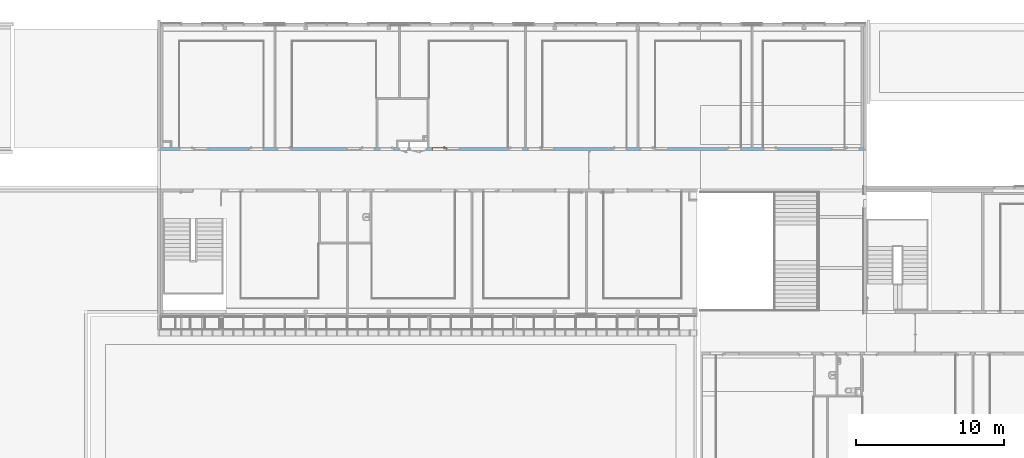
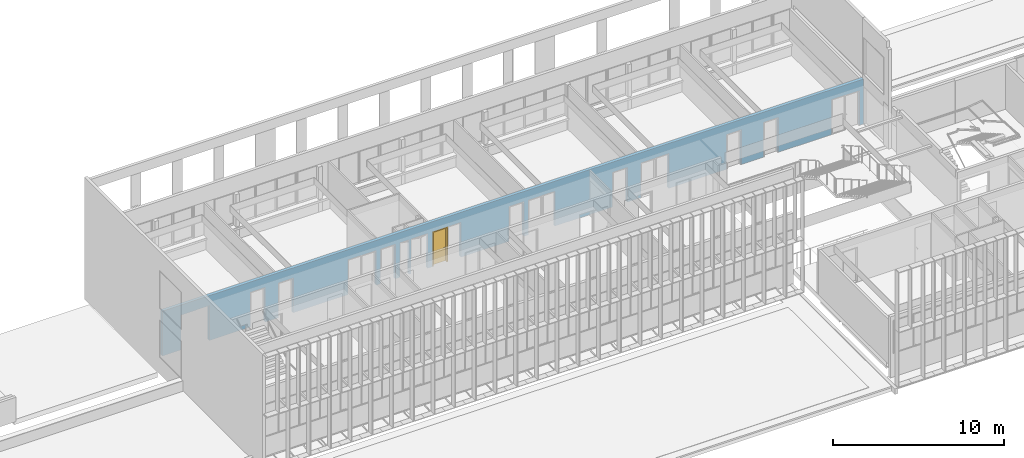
# One storey, part 53 of 106: 1 door, 21 openings, plus 1 element that does not belong to this part.
"""IFC2X3 building model written with IfcOpenShell, lengths in centimetres."""

from ifc_helpers import new_model, entity, si_unit, converted_unit, derived_unit, direction, frame, frame_2d, origin, place, context, subcontext, project, spatial, polyline, rectangle, extrude, clip, bounded_halfspace, faceted_brep, source, transform, mapped, material, material_list, layer, layer_set, layer_usage, type_object, type_shapes, element, fill, save


model = new_model("IFC2X3")

# Units and contexts
model_context = context("Model", 3, precision=0.001, world=origin(), true_north=direction((6.12303176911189e-17, 1.0)))
body_context = subcontext(model_context, "Body", "Model", "MODEL_VIEW")
ifc_project = project(units=[si_unit("LENGTHUNIT", "METRE", prefix="CENTI"), si_unit("AREAUNIT", "SQUARE_METRE"), si_unit("VOLUMEUNIT", "CUBIC_METRE"), converted_unit("PLANEANGLEUNIT", "DEGREE", entity("IfcRatioMeasure", 0.0174532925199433), si_unit("PLANEANGLEUNIT", "RADIAN"), dimensions=[0, 0, 0, 0, 0, 0, 0]), si_unit("MASSUNIT", "GRAM", prefix="KILO"), derived_unit("MASSDENSITYUNIT", [(si_unit("MASSUNIT", "GRAM", prefix="KILO"), 1), (si_unit("LENGTHUNIT", "METRE"), -3)]), si_unit("TIMEUNIT", "SECOND"), si_unit("FREQUENCYUNIT", "HERTZ"), si_unit("THERMODYNAMICTEMPERATUREUNIT", "DEGREE_CELSIUS"), derived_unit("THERMALTRANSMITTANCEUNIT", [(si_unit("MASSUNIT", "GRAM", prefix="KILO"), 1), (si_unit("THERMODYNAMICTEMPERATUREUNIT", "KELVIN"), -1), (si_unit("TIMEUNIT", "SECOND"), -3)]), derived_unit("VOLUMETRICFLOWRATEUNIT", [(si_unit("LENGTHUNIT", "METRE"), 3), (si_unit("TIMEUNIT", "SECOND"), -1)]), si_unit("ELECTRICCURRENTUNIT", "AMPERE"), si_unit("ELECTRICVOLTAGEUNIT", "VOLT"), si_unit("POWERUNIT", "WATT"), si_unit("FORCEUNIT", "NEWTON", prefix="KILO"), si_unit("ILLUMINANCEUNIT", "LUX"), si_unit("LUMINOUSFLUXUNIT", "LUMEN"), si_unit("LUMINOUSINTENSITYUNIT", "CANDELA"), derived_unit("USERDEFINED", [(si_unit("MASSUNIT", "GRAM", prefix="KILO"), -1), (si_unit("LENGTHUNIT", "METRE"), -2), (si_unit("TIMEUNIT", "SECOND"), 3), (si_unit("LUMINOUSFLUXUNIT", "LUMEN"), 1)]), derived_unit("LINEARVELOCITYUNIT", [(si_unit("LENGTHUNIT", "METRE"), 1), (si_unit("TIMEUNIT", "SECOND"), -1)]), si_unit("PRESSUREUNIT", "PASCAL"), derived_unit("USERDEFINED", [(si_unit("LENGTHUNIT", "METRE"), -2), (si_unit("MASSUNIT", "GRAM", prefix="KILO"), 1), (si_unit("TIMEUNIT", "SECOND"), -2)])], contexts=[model_context])

# Site, building, storey
site_placement = place(None, frame((-2781.94577612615, 7442.24238424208, 0.0)))
site = spatial("IfcSite", under=ifc_project, at=site_placement, Name="Default", CompositionType="ELEMENT")
building_placement = place(site_placement, origin())
building = spatial("IfcBuilding", under=site, at=building_placement, CompositionType="ELEMENT")
storey_placement = place(building_placement, frame((0.0, 0.0, 422.0)))
storey = spatial("IfcBuildingStorey", under=building, at=storey_placement, Name="Toiture - Cuisine", CompositionType="ELEMENT", Elevation=421.999999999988)

# Wall, openings, door
ifc_material_1 = material(Name="01 - Maçonnerie")
ifc_layer = layer(ifc_material_1, 20.0)
ifc_layer_set = layer_set([ifc_layer], Name="Mur de base:04 - Structure - béton - 20cm")
ifc_layer_usage = layer_usage(ifc_layer_set, "AXIS2", "NEGATIVE", 10.0)
wall_type = type_object("IfcWallType", Name="Mur de base:04 - Structure - béton - 20cm", PredefinedType="STANDARD", material=ifc_layer_set)
wall_placement = place(building_placement, frame((-8409.49987766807, -820.048500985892, 422.0)))
wall = element("IfcWallStandardCase", 1, at=wall_placement, inside=storey, type_object=wall_type, material=ifc_layer_usage, Name="Mur de base:04 - Structure - béton - 20cm", ObjectType="Mur de base:04 - Structure - béton - 20cm", context=body_context, shape_type="Clipping", body=[
    clip(extrude(rectangle(XDim=4741.49999798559, YDim=20.0, at=frame_2d((2370.74999899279, 2.04281036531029e-14), x_axis=(-1.0, 0.0))), origin(), (0.0, 0.0, 1.0), 321.0), bounded_halfspace(frame((4741.49999798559, -10.0, 321.0), z_axis=(0.0, 0.0, -1.0), x_axis=(0.0, 1.0, 0.0)), True, frame((4741.49999798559, -10.0, 321.0)), polyline([(0.0, 0.0), (0.0, 20.0), (-15.3000000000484, 20.0), (-125.300000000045, 20.0), (-127.300000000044, 20.0), (-675.800000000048, 20.0), (-677.800000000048, 20.0), (-745.800000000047, 20.0), (-755.800000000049, 20.0), (-825.800000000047, 20.0), (-827.800000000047, 20.0), (-1403.80000000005, 20.0), (-1405.80000000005, 20.0), (-1516.49999791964, 20.0), (-1526.49999791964, 20.0), (-1595.78709704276, 20.0), (-1597.78709704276, 20.0), (-2163.80000000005, 20.0), (-2165.80000000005, 20.0), (-2275.80000000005, 20.0), (-2285.80000000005, 20.0), (-2395.80000000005, 20.0), (-2397.80000000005, 20.0), (-2931.80000000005, 20.0), (-2941.80000000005, 20.0), (-3060.80000000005, 20.0), (-3070.80000000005, 20.0), (-3137.80000000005, 20.0), (-3147.80000000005, 20.0), (-3275.80000000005, 20.0), (-3285.80000000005, 20.0), (-3416.49999791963, 20.0), (-3535.80000000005, 20.0), (-3545.80000000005, 20.0), (-3611.80000000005, 20.0), (-3853.80000000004, 20.0), (-3855.80000000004, 20.0), (-3965.80000000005, 20.0), (-3975.80000000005, 20.0), (-4044.30000000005, 20.0), (-4046.30000000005, 20.0), (-4614.19999798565, 20.0), (-4616.19999798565, 20.0), (-4666.19999798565, 20.0), (-4676.19999798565, 20.0), (-4726.19999798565, 20.0), (-4741.49999798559, 20.0), (-4741.49999798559, 0.0), (-1854.0, 0.0), (-1844.0, 0.0), (-1840.0, 0.0), (0.0, 0.0)]))),
])
opening_1_placement = place(wall_placement, frame((1669.50000006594, 10.0, 0.0)))
element("IfcOpeningElement", 2, at=opening_1_placement, cuts=wall, Name="Int. Simple:PP Placard (0.55m x 2.50m):1", ObjectType="Opening", context=body_context, shape_type="SweptSolid", body=[
    extrude(rectangle(XDim=248.500000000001, YDim=61.9999999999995, at=frame_2d((124.250000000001, 30.9999999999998), x_axis=(1.0, 0.0))), frame((0.0, 0.0, 0.0), z_axis=(0.0, -1.0, 0.0), x_axis=(0.0, 0.0, 1.0)), (0.0, 0.0, 1.0), 20.0),
])
opening_2_placement = place(wall_placement, frame((1794.50000006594, 10.0, 0.0)))
element("IfcOpeningElement", 3, at=opening_2_placement, cuts=wall, Name="Int. Double:PP Placard (1.05m x 2.50m):1", ObjectType="Opening", context=body_context, shape_type="SweptSolid", body=[
    extrude(rectangle(XDim=248.500000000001, YDim=112.0, at=frame_2d((124.250000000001, 56.0000000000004), x_axis=(1.0, 0.0))), frame((0.0, 0.0, 0.0), z_axis=(0.0, -1.0, 0.0), x_axis=(0.0, 0.0, 1.0)), (0.0, 0.0, 1.0), 20.0),
])
opening_3_placement = place(wall_placement, frame((126.799999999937, -10.0, 0.0)))
element("IfcOpeningElement", 4, at=opening_3_placement, cuts=wall, Name="Int. Simple:PV (0.93m x 2.50m):1", ObjectType="Opening", context=body_context, shape_type="SweptSolid", body=[
    extrude(rectangle(XDim=248.500000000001, YDim=99.9999999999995, at=frame_2d((124.250000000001, 50.0), x_axis=(1.0, 0.0))), frame((0.0, 0.0, 0.0), z_axis=(0.0, 1.0, 0.0), x_axis=(0.0, 0.0, 1.0)), (0.0, 0.0, 1.0), 20.0),
])
opening_4_placement = place(wall_placement, frame((595.699997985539, -10.0, 0.0)))
element("IfcOpeningElement", 5, at=opening_4_placement, cuts=wall, Name="Int. Simple:PV (0.93m x 2.50m):1", ObjectType="Opening", context=body_context, shape_type="SweptSolid", body=[
    extrude(rectangle(XDim=248.500000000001, YDim=99.9999999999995, at=frame_2d((124.250000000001, 49.9999999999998), x_axis=(1.0, 0.0))), frame((0.0, 0.0, 0.0), z_axis=(0.0, 1.0, 0.0), x_axis=(0.0, 0.0, 1.0)), (0.0, 0.0, 1.0), 20.0),
])
opening_5_placement = place(wall_placement, frame((785.699997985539, -10.0, 0.0)))
element("IfcOpeningElement", 6, at=opening_5_placement, cuts=wall, Name="Int. Simple:PV (0.93m x 2.50m):1", ObjectType="Opening", context=body_context, shape_type="SweptSolid", body=[
    extrude(rectangle(XDim=248.500000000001, YDim=99.9999999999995, at=frame_2d((124.250000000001, 50.0), x_axis=(1.0, 0.0))), frame((0.0, 0.0, 0.0), z_axis=(0.0, 1.0, 0.0), x_axis=(0.0, 0.0, 1.0)), (0.0, 0.0, 1.0), 20.0),
])
opening_6_placement = place(wall_placement, frame((1345.69999798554, -10.0, 0.0)))
element("IfcOpeningElement", 7, at=opening_6_placement, cuts=wall, Name="Int. Simple:PV (0.93m x 2.50m):1", ObjectType="Opening", context=body_context, shape_type="SweptSolid", body=[
    extrude(rectangle(XDim=248.500000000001, YDim=99.9999999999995, at=frame_2d((124.250000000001, 49.9999999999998), x_axis=(1.0, 0.0))), frame((0.0, 0.0, 0.0), z_axis=(0.0, 1.0, 0.0), x_axis=(0.0, 0.0, 1.0)), (0.0, 0.0, 1.0), 20.0),
])
opening_7_placement = place(wall_placement, frame((1475.69999798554, -10.0, 0.0)))
element("IfcOpeningElement", 8, at=opening_7_placement, cuts=wall, Name="Int. Simple:PP simple (0.93m x 2.50m):1", ObjectType="Opening", context=body_context, shape_type="SweptSolid", body=[
    extrude(rectangle(XDim=248.500000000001, YDim=99.9999999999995, at=frame_2d((124.250000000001, 50.0), x_axis=(1.0, 0.0))), frame((0.0, 0.0, 0.0), z_axis=(0.0, 1.0, 0.0), x_axis=(0.0, 0.0, 1.0)), (0.0, 0.0, 1.0), 20.0),
])
opening_8_placement = place(wall_placement, frame((1829.69999798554, -10.0, 0.0)))
opening_8 = element("IfcOpeningElement", 9, at=opening_8_placement, cuts=wall, Name="Int. Simple:PV (0.93m x 2.50m):1", ObjectType="Opening", context=body_context, shape_type="SweptSolid", body=[
    extrude(rectangle(XDim=248.500000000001, YDim=99.9999999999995, at=frame_2d((124.250000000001, 50.0), x_axis=(1.0, 0.0))), frame((0.0, 0.0, 0.0), z_axis=(0.0, 1.0, 0.0), x_axis=(0.0, 0.0, 1.0)), (0.0, 0.0, 1.0), 20.0),
])
opening_9_placement = place(wall_placement, frame((2345.69999798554, -10.0, 0.0)))
element("IfcOpeningElement", 10, at=opening_9_placement, cuts=wall, Name="Int. Simple:PV (0.93m x 2.50m):1", ObjectType="Opening", context=body_context, shape_type="SweptSolid", body=[
    extrude(rectangle(XDim=248.500000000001, YDim=99.9999999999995, at=frame_2d((124.250000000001, 49.9999999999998), x_axis=(1.0, 0.0))), frame((0.0, 0.0, 0.0), z_axis=(0.0, 1.0, 0.0), x_axis=(0.0, 0.0, 1.0)), (0.0, 0.0, 1.0), 20.0),
])
opening_10_placement = place(wall_placement, frame((2475.69999798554, -10.0, 0.0)))
element("IfcOpeningElement", 11, at=opening_10_placement, cuts=wall, Name="Int. Simple:PV (0.93m x 2.50m):1", ObjectType="Opening", context=body_context, shape_type="SweptSolid", body=[
    extrude(rectangle(XDim=248.500000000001, YDim=99.9999999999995, at=frame_2d((124.250000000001, 50.0), x_axis=(1.0, 0.0))), frame((0.0, 0.0, 0.0), z_axis=(0.0, 1.0, 0.0), x_axis=(0.0, 0.0, 1.0)), (0.0, 0.0, 1.0), 20.0),
])
opening_11_placement = place(wall_placement, frame((3045.69999798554, -10.0, 0.0)))
element("IfcOpeningElement", 12, at=opening_11_placement, cuts=wall, Name="Int. Simple:PV (0.93m x 2.50m):1", ObjectType="Opening", context=body_context, shape_type="SweptSolid", body=[
    extrude(rectangle(XDim=248.500000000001, YDim=99.9999999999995, at=frame_2d((124.250000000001, 49.9999999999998), x_axis=(1.0, 0.0))), frame((0.0, 0.0, 0.0), z_axis=(0.0, 1.0, 0.0), x_axis=(0.0, 0.0, 1.0)), (0.0, 0.0, 1.0), 20.0),
])
opening_12_placement = place(wall_placement, frame((3235.69999798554, -10.0, 0.0)))
element("IfcOpeningElement", 13, at=opening_12_placement, cuts=wall, Name="Int. Simple:PV (0.93m x 2.50m):1", ObjectType="Opening", context=body_context, shape_type="SweptSolid", body=[
    extrude(rectangle(XDim=248.500000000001, YDim=99.9999999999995, at=frame_2d((124.250000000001, 50.0), x_axis=(1.0, 0.0))), frame((0.0, 0.0, 0.0), z_axis=(0.0, 1.0, 0.0), x_axis=(0.0, 0.0, 1.0)), (0.0, 0.0, 1.0), 20.0),
])
opening_13_placement = place(wall_placement, frame((3815.69999798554, -10.0, 0.0)))
element("IfcOpeningElement", 14, at=opening_13_placement, cuts=wall, Name="Int. Simple:PV (0.93m x 2.50m):1", ObjectType="Opening", context=body_context, shape_type="SweptSolid", body=[
    extrude(rectangle(XDim=248.500000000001, YDim=99.9999999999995, at=frame_2d((124.250000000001, 49.9999999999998), x_axis=(1.0, 0.0))), frame((0.0, 0.0, 0.0), z_axis=(0.0, 1.0, 0.0), x_axis=(0.0, 0.0, 1.0)), (0.0, 0.0, 1.0), 20.0),
])
opening_14_placement = place(wall_placement, frame((4065.69999798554, -10.0, 0.0)))
element("IfcOpeningElement", 15, at=opening_14_placement, cuts=wall, Name="Int. Simple:PV (0.93m x 2.50m):1", ObjectType="Opening", context=body_context, shape_type="SweptSolid", body=[
    extrude(rectangle(XDim=248.500000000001, YDim=99.9999999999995, at=frame_2d((124.250000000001, 50.0), x_axis=(1.0, 0.0))), frame((0.0, 0.0, 0.0), z_axis=(0.0, 1.0, 0.0), x_axis=(0.0, 0.0, 1.0)), (0.0, 0.0, 1.0), 20.0),
])
opening_15_placement = place(wall_placement, frame((4616.19999798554, -10.0, 0.0)))
element("IfcOpeningElement", 16, at=opening_15_placement, cuts=wall, Name="Int. Simple:PV (0.93m x 2.50m):1", ObjectType="Opening", context=body_context, shape_type="SweptSolid", body=[
    extrude(rectangle(XDim=248.500000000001, YDim=99.9999999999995, at=frame_2d((124.250000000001, 49.9999999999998), x_axis=(1.0, 0.0))), frame((0.0, 0.0, 0.0), z_axis=(0.0, 1.0, 0.0), x_axis=(0.0, 0.0, 1.0)), (0.0, 0.0, 1.0), 20.0),
])
opening_16_placement = place(wall_placement, frame((1255.69999798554, -10.0, 0.0)))
element("IfcOpeningElement", 17, at=opening_16_placement, cuts=wall, Name="châssis intérieur vitré:châssis intérieur vitré (h=270) R+1:1", ObjectType="Opening", context=body_context, shape_type="SweptSolid", body=[
    extrude(rectangle(XDim=250.0, YDim=89.9999999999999, at=frame_2d((125.0, 45.0), x_axis=(1.0, 0.0))), frame((0.0, 0.0, 0.0), z_axis=(0.0, 1.0, 0.0), x_axis=(0.0, 0.0, 1.0)), (0.0, 0.0, 1.0), 20.0),
])
opening_17_placement = place(wall_placement, frame((1929.69999798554, -10.0, 0.0)))
element("IfcOpeningElement", 18, at=opening_17_placement, cuts=wall, Name="châssis intérieur vitré:châssis intérieur vitré (h=270) R+1:1", ObjectType="Opening", context=body_context, shape_type="SweptSolid", body=[
    extrude(rectangle(XDim=250.0, YDim=89.9999999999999, at=frame_2d((125.0, 45.0), x_axis=(1.0, 0.0))), frame((0.0, 0.0, 0.0), z_axis=(0.0, 1.0, 0.0), x_axis=(0.0, 0.0, 1.0)), (0.0, 0.0, 1.0), 20.0),
])
opening_18_placement = place(wall_placement, frame((4526.19999798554, -10.0, 0.0)))
element("IfcOpeningElement", 19, at=opening_18_placement, cuts=wall, Name="châssis intérieur vitré:châssis intérieur vitré (h=270) R+1:1", ObjectType="Opening", context=body_context, shape_type="SweptSolid", body=[
    extrude(rectangle(XDim=250.0, YDim=89.9999999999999, at=frame_2d((125.0, 45.0000000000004), x_axis=(1.0, 0.0))), frame((0.0, 0.0, 0.0), z_axis=(0.0, 1.0, 0.0), x_axis=(0.0, 0.0, 1.0)), (0.0, 0.0, 1.0), 20.0),
])
opening_19_placement = place(wall_placement, frame((3335.69999798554, -10.0, 0.0)))
element("IfcOpeningElement", 20, at=opening_19_placement, cuts=wall, Name="châssis intérieur vitré:châssis intérieur vitré (h=270) R+1:1", ObjectType="Opening", context=body_context, shape_type="SweptSolid", body=[
    extrude(rectangle(XDim=250.0, YDim=89.9999999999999, at=frame_2d((125.0, 45.0000000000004), x_axis=(1.0, 0.0))), frame((0.0, 0.0, 0.0), z_axis=(0.0, 1.0, 0.0), x_axis=(0.0, 0.0, 1.0)), (0.0, 0.0, 1.0), 20.0),
])
opening_20_placement = place(wall_placement, frame((2565.69999798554, -10.0, 0.0)))
element("IfcOpeningElement", 21, at=opening_20_placement, cuts=wall, Name="châssis intérieur vitré:châssis intérieur vitré (h=270) R+1:1", ObjectType="Opening", context=body_context, shape_type="SweptSolid", body=[
    extrude(rectangle(XDim=250.0, YDim=89.9999999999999, at=frame_2d((125.0, 45.0000000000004), x_axis=(1.0, 0.0))), frame((0.0, 0.0, 0.0), z_axis=(0.0, 1.0, 0.0), x_axis=(0.0, 0.0, 1.0)), (0.0, 0.0, 1.0), 20.0),
])
opening_21_placement = place(wall_placement, frame((226.799999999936, -10.0, 0.0)))
element("IfcOpeningElement", 22, at=opening_21_placement, cuts=wall, Name="châssis intérieur vitré:châssis intérieur vitré (h=270) R+1:1", ObjectType="Opening", context=body_context, shape_type="SweptSolid", body=[
    extrude(rectangle(XDim=250.0, YDim=91.4999999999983, at=frame_2d((125.0, 45.7499999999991), x_axis=(1.0, 0.0))), frame((0.0, 0.0, 0.0), z_axis=(0.0, 1.0, 0.0), x_axis=(0.0, 0.0, 1.0)), (0.0, 0.0, 1.0), 20.0),
])
ifc_material_2 = material(Name="Finition Peinture - Blanc satiné")
ifc_material_3 = material(Name="Bois - Panneau de porte")
ifc_material_4 = material(Name="Bois - Cadre de porte")
ifc_material_list_1 = material_list([ifc_material_2, ifc_material_3, ifc_material_4])
ifc_material_list_2 = material_list([ifc_material_2, ifc_material_3, ifc_material_4])
door_style = type_object("IfcDoorStyle", Name="PV (0.93m x 2.50m)", ConstructionType="NOTDEFINED", OperationType="SINGLE_SWING_LEFT", ParameterTakesPrecedence=False, Sizeable=False, material=ifc_material_list_2)
shared_shape = source(origin(), body_context, "Body", "Brep", [
    faceted_brep([(10.5352761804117, -0.500000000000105, 86.6003983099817), (11.5000000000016, -0.500000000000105, 87.0), (11.5000000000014, -0.500000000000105, 108.0), (10.5352761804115, -0.500000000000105, 108.399601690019), (9.50000000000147, -0.500000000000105, 108.535898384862), (8.46472381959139, -0.500000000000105, 108.399601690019), (7.50000000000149, -0.500000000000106, 108.0), (7.50000000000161, -0.500000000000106, 87.0), (8.46472381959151, -0.500000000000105, 86.6003983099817), (9.50000000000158, -0.500000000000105, 86.464101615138), (10.5352761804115, 0.0, 108.399601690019), (11.5000000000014, 0.0, 108.0), (11.5000000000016, 0.0, 87.0), (10.5352761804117, 0.0, 86.6003983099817), (9.50000000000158, 0.0, 86.464101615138), (8.46472381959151, 0.0, 86.6003983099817), (7.50000000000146, 0.0, 87.0), (7.50000000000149, 0.0, 108.0), (8.46472381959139, 0.0, 108.399601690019), (9.50000000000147, 0.0, 108.535898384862)], [[[0, 1, 2, 3, 4, 5, 6, 7, 8, 9]], [[10, 11, 12, 13, 14, 15, 16, 17, 18, 19]], [[16, 15, 8, 7]], [[8, 15, 14, 9]], [[14, 13, 0, 9]], [[13, 12, 1, 0]], [[2, 1, 12, 11]], [[11, 10, 3, 2]], [[3, 10, 19, 4]], [[19, 18, 5, 4]], [[18, 17, 6, 5]], [[7, 6, 17, 16]]]),
    faceted_brep([(10.5352761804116, 4.0, 86.6003983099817), (11.5000000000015, 4.0, 87.0), (11.5000000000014, 4.0, 108.0), (10.5352761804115, 4.0, 108.399601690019), (9.50000000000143, 4.0, 108.535898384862), (8.46472381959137, 4.0, 108.399601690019), (7.50000000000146, 4.0, 108.0), (7.50000000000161, 4.0, 87.0), (8.46472381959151, 4.0, 86.6003983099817), (9.50000000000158, 4.0, 86.464101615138), (10.5352761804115, 4.49999999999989, 108.399601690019), (11.5000000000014, 4.49999999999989, 108.0), (11.5000000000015, 4.49999999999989, 87.0), (10.5352761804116, 4.49999999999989, 86.6003983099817), (9.50000000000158, 4.49999999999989, 86.464101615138), (8.46472381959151, 4.49999999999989, 86.6003983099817), (7.50000000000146, 4.49999999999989, 87.0), (7.50000000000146, 4.49999999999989, 108.0), (8.46472381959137, 4.49999999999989, 108.399601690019), (9.50000000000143, 4.49999999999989, 108.535898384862)], [[[0, 1, 2, 3, 4, 5, 6, 7, 8, 9]], [[10, 11, 12, 13, 14, 15, 16, 17, 18, 19]], [[11, 10, 3, 2]], [[3, 10, 19, 4]], [[19, 18, 5, 4]], [[18, 17, 6, 5]], [[7, 6, 17, 16]], [[16, 15, 8, 7]], [[8, 15, 14, 9]], [[14, 13, 0, 9]], [[13, 12, 1, 0]], [[2, 1, 12, 11]]]),
    faceted_brep([(9.29747013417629, -0.500000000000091, 100.778044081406), (9.70252986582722, -0.500000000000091, 100.778044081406), (10.1000000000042, -0.500000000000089, 100.699999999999), (10.1000000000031, -0.500000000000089, 99.3000000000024), (9.7025298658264, -0.500000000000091, 99.2219559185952), (9.29747013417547, -0.500000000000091, 99.221955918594), (8.8999999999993, -0.500000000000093, 99.2999999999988), (8.89999999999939, -0.500000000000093, 100.7), (8.89999999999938, -3.26509507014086, 100.7), (9.29747013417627, -3.10045754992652, 100.778044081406), (10.9023585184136, -4.70534593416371, 100.778044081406), (11.0701397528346, -4.30028620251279, 100.778044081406), (9.7025298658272, -2.93267631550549, 100.778044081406), (10.1000000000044, -2.76803879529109, 100.7), (10.1000000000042, -2.76803879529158, 99.3000000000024), (9.7025298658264, -2.93267631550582, 99.2219559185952), (11.0701397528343, -4.30028620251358, 99.2219559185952), (10.9023585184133, -4.70534593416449, 99.221955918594), (9.29747013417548, -3.10045754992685, 99.221955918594), (8.89999999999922, -3.26509507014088, 99.2999999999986), (10.7377209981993, -5.10281606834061, 100.7), (11.2347772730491, -3.90281606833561, 100.7), (11.2347772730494, -3.90281606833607, 99.3000000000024), (10.7377209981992, -5.10281606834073, 99.2999999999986), (19.5018640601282, -5.1028160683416, 99.2999999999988), (19.5018640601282, -4.70534593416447, 99.221955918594), (19.5018640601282, -4.30028620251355, 99.2219559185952), (19.5018640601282, -3.90281606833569, 99.3000000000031), (19.5018640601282, -3.90281606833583, 100.7), (19.5018640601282, -4.30028620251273, 100.778044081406), (19.5018640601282, -4.70534593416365, 100.778044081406), (19.5018640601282, -5.10281606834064, 100.699999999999), (14.7307697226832, -5.10281606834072, 100.7), (15.2860019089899, -4.5028160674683, 100.78786867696), (15.3683206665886, -3.9028160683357, 100.7), (15.3683206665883, -3.90281606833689, 99.3000000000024), (15.2860018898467, -4.50281607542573, 99.2121313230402), (14.7307700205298, -5.10281606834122, 99.2999999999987)], [[[0, 1, 2, 3, 4, 5, 6, 7]], [[8, 9, 0, 7]], [[9, 10, 11, 12, 1, 0]], [[12, 13, 2, 1]], [[3, 2, 13, 14]], [[14, 15, 4, 3]], [[15, 16, 17, 18, 5, 4]], [[18, 19, 6, 5]], [[7, 6, 19, 8]], [[20, 10, 9, 8]], [[11, 21, 13, 12]], [[14, 13, 21, 22]], [[22, 16, 15, 14]], [[17, 23, 19, 18]], [[8, 19, 23, 20]], [[24, 25, 26, 27, 28, 29, 30, 31]], [[32, 30, 33]], [[31, 30, 32]], [[10, 20, 32]], [[33, 34, 11]], [[21, 11, 34]], [[34, 29, 28]], [[30, 29, 33]], [[29, 34, 33]], [[10, 32, 33]], [[10, 33, 11]], [[22, 21, 34, 28, 27, 35]], [[35, 26, 36]], [[37, 36, 25]], [[22, 35, 16]], [[35, 27, 26]], [[24, 37, 25]], [[23, 17, 37]], [[37, 17, 36]], [[17, 16, 36]], [[16, 35, 36]], [[25, 36, 26]], [[20, 23, 37, 24, 31, 32]]]),
    faceted_brep([(9.29747013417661, 4.49999999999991, 100.778044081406), (8.89999999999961, 4.4999999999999, 100.7), (8.89999999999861, 4.4999999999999, 99.2999999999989), (9.29747013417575, 4.49999999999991, 99.221955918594), (9.70252986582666, 4.49999999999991, 99.2219559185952), (10.1000000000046, 4.49999999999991, 99.3000000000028), (10.1000000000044, 4.49999999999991, 100.7), (9.70252986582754, 4.49999999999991, 100.778044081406), (10.1000000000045, 6.7485204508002, 99.3000000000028), (10.1000000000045, 6.74852045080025, 100.7), (9.70252986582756, 6.91315797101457, 100.778044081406), (11.083890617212, 8.29451872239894, 100.778044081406), (10.916109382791, 8.69957845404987, 100.778044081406), (9.29747013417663, 7.0809392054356, 100.778044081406), (8.89999999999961, 7.24557672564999, 100.7), (8.89999999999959, 7.2455767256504, 99.2999999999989), (9.29747013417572, 7.08093920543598, 99.221955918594), (10.9161093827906, 8.69957845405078, 99.221955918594), (11.0838906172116, 8.29451872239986, 99.2219559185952), (9.70252986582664, 6.91315797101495, 99.2219559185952), (11.2485281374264, 7.89704858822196, 99.3000000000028), (11.2485281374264, 7.89704858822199, 100.7), (10.7514718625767, 9.09704858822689, 100.7), (10.7514718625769, 9.0970485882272, 99.2999999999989), (19.5045783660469, 7.89704858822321, 99.3000000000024), (19.5045783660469, 8.29451872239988, 99.2219559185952), (19.5045783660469, 8.6995784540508, 99.221955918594), (19.5045783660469, 9.09704858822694, 99.2999999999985), (19.5045783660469, 9.09704858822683, 100.7), (19.5045783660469, 8.69957845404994, 100.778044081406), (19.5045783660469, 8.29451872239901, 100.778044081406), (19.5045783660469, 7.89704858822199, 100.7), (15.3765520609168, 7.89704858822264, 99.3000000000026), (15.3765532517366, 7.89704858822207, 100.7), (15.294234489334, 8.49704858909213, 100.78786867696), (14.7445205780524, 9.09704858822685, 100.7), (14.7445204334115, 9.09704858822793, 99.2999999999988), (15.2942345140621, 8.49704858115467, 99.2121313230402)], [[[0, 1, 2, 3, 4, 5, 6, 7]], [[6, 5, 8, 9]], [[9, 10, 7, 6]], [[10, 11, 12, 13, 0, 7]], [[13, 14, 1, 0]], [[2, 1, 14, 15]], [[15, 16, 3, 2]], [[16, 17, 18, 19, 4, 3]], [[19, 8, 5, 4]], [[9, 8, 20, 21]], [[21, 11, 10, 9]], [[12, 22, 14, 13]], [[15, 14, 22, 23]], [[23, 17, 16, 15]], [[18, 20, 8, 19]], [[24, 25, 26, 27, 28, 29, 30, 31]], [[21, 20, 32, 24, 31, 33]], [[33, 30, 34]], [[35, 34, 29]], [[21, 33, 11]], [[33, 31, 30]], [[28, 35, 29]], [[22, 12, 35]], [[35, 12, 34]], [[12, 11, 34]], [[11, 33, 34]], [[29, 34, 30]], [[22, 35, 28, 27, 36, 23]], [[36, 26, 37]], [[27, 26, 36]], [[17, 23, 36]], [[37, 32, 18]], [[20, 18, 32]], [[32, 25, 24]], [[26, 25, 37]], [[25, 32, 37]], [[17, 36, 37]], [[17, 37, 18]]]),
    faceted_brep([(3.50000000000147, 4.0, 245.0), (96.5000000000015, 4.0, 245.0), (96.5000000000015, 4.0, 0.0), (3.50000000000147, 4.0, 0.0), (3.50000000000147, 0.0, 245.0), (3.50000000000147, 0.0, 0.0), (96.5000000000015, 0.0, 0.0), (96.5000000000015, 0.0, 245.0)], [[[0, 1, 2, 3]], [[4, 5, 6, 7]], [[1, 0, 4, 7]], [[2, 1, 7, 6]], [[3, 2, 6, 5]], [[0, 3, 5, 4]]]),
    faceted_brep([(0.0, 20.0, 0.0), (-1.50000000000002, 20.0, 0.0), (-1.50000000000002, 20.5000000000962, 0.0), (5.0, 20.5000000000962, 0.0), (5.0, 4.0, 0.0), (3.50000000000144, 4.0, 0.0), (3.50000000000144, -0.500000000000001, 0.0), (-1.50000000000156, -0.500000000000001, 0.0), (-1.50000000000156, 0.0, 0.0), (0.0, 0.0, 0.0), (0.0, 20.0, 248.500000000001), (100.0, 20.0, 248.500000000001), (100.0, 20.0, 0.0), (101.5, 20.0, 0.0), (101.5, 20.0, 250.0), (-1.50000000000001, 20.0, 250.0), (-1.50000000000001, 20.5000000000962, 250.0), (101.5, 20.5000000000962, 250.0), (101.5, 20.5000000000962, 0.0), (95.0, 20.5000000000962, 0.0), (95.0, 20.5000000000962, 243.5), (5.0, 20.5000000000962, 243.5), (5.0, 4.0, 243.5), (95.0, 4.0, 243.5), (95.0, 4.0, 0.0), (96.499999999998, 4.0, 0.0), (96.499999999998, 4.0, 245.0), (3.50000000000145, 4.0, 245.0), (3.50000000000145, -0.500000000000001, 245.0), (96.499999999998, -0.500000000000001, 245.0), (96.499999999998, -0.500000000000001, 0.0), (101.500000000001, -0.500000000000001, 0.0), (101.500000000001, -0.500000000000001, 250.0), (-1.50000000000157, -0.500000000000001, 250.0), (-1.50000000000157, 0.0, 250.0), (101.500000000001, 0.0, 250.0), (101.500000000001, 0.0, 0.0), (100.0, 0.0, 0.0), (100.0, 0.0, 248.500000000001), (0.0, 0.0, 248.500000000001)], [[[0, 1, 2, 3, 4, 5, 6, 7, 8, 9]], [[1, 0, 10, 11, 12, 13, 14, 15]], [[2, 1, 15, 16]], [[3, 2, 16, 17, 18, 19, 20, 21]], [[3, 21, 22, 4]], [[5, 4, 22, 23, 24, 25, 26, 27]], [[5, 27, 28, 6]], [[7, 6, 28, 29, 30, 31, 32, 33]], [[8, 7, 33, 34]], [[9, 8, 34, 35, 36, 37, 38, 39]], [[0, 9, 39, 10]], [[11, 38, 37, 12]], [[12, 37, 36, 31, 30, 25, 24, 19, 18, 13]], [[17, 14, 13, 18]], [[23, 20, 19, 24]], [[29, 26, 25, 30]], [[35, 32, 31, 36]], [[16, 15, 14, 17]], [[22, 21, 20, 23]], [[28, 27, 26, 29]], [[34, 33, 32, 35]], [[10, 39, 38, 11]]]),
])
type_shapes(door_style, [shared_shape])
door_placement = place(opening_8_placement, frame((100.0, 20.0, 0.0), z_axis=(0.0, 0.0, 1.0), x_axis=(-1.0, 0.0, 0.0)))
door = element("IfcDoor", 23, at=door_placement, inside=storey, type_object=door_style, material=ifc_material_list_1, Name="Int. Simple:PV (0.93m x 2.50m)", ObjectType="Int. Simple:PV (0.93m x 2.50m)", OverallHeight=248.500000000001, OverallWidth=99.9999999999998, context=body_context, shape_type="MappedRepresentation", body=[
    mapped(shared_shape, transform((0.0, 0.0, 0.0), scale=1.0)),
])
fill(opening_8, door)

save(model, "model.ifc")
